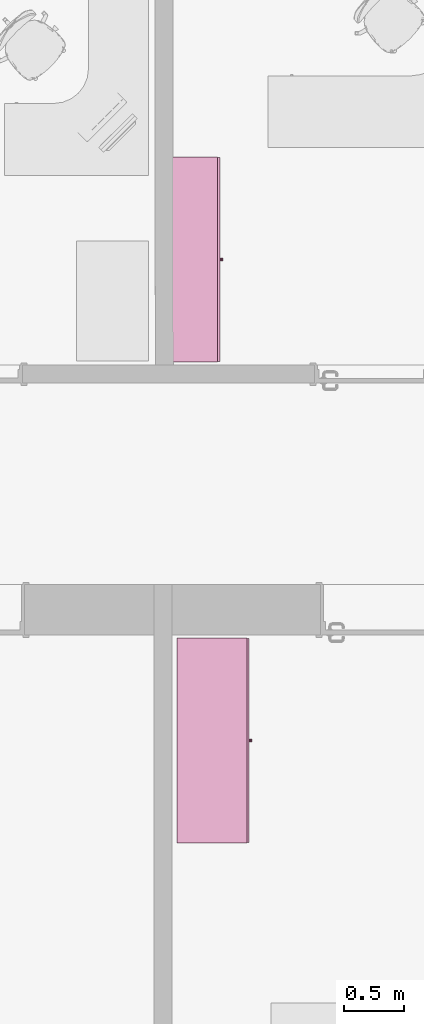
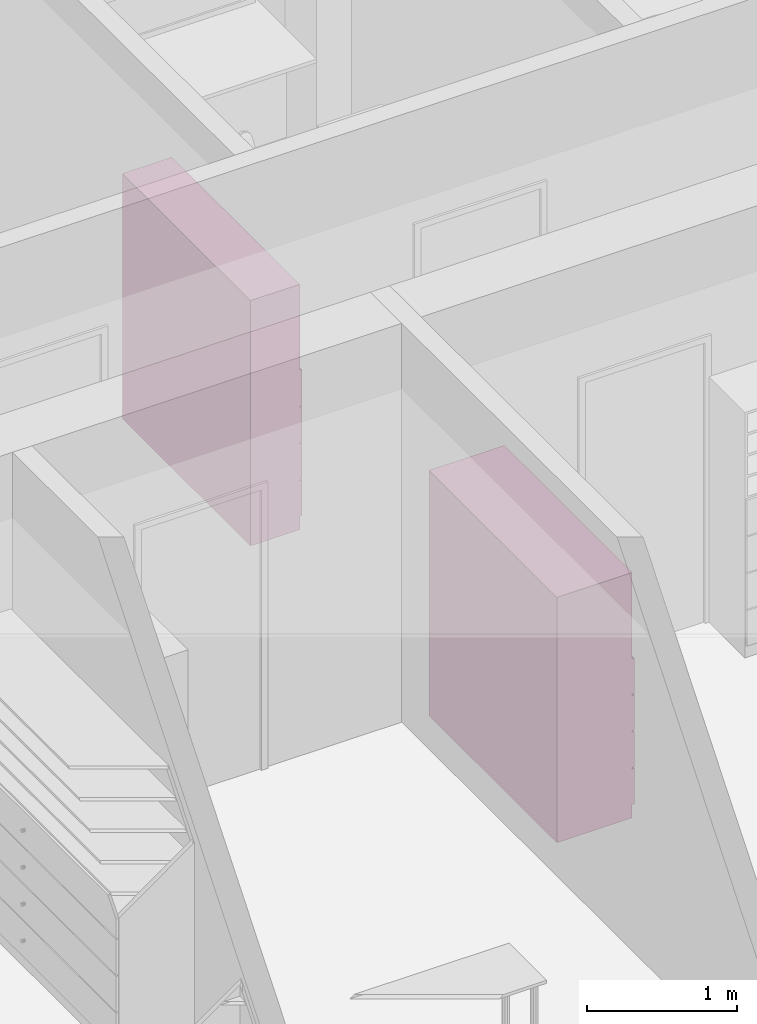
# One storey, part 144 of 194: 2 furnishings.
"""IFC2X3 building model written with IfcOpenShell, lengths in millimetres."""

from ifc_helpers import new_model, entity, si_unit, converted_unit, derived_unit, money_unit, direction, frame, origin_with_axes, place, context, subcontext, project, spatial, faceted_brep, source, transform, mapped, type_object, element, save


model = new_model("IFC2X3")

# Units and contexts
model_context = context("Model", 3, precision=1e-05, world=origin_with_axes(), true_north=direction((0.0, 1.0)))
body_context = subcontext(model_context, "Body", "Model", "MODEL_VIEW")
ifc_project = project(units=[si_unit("LENGTHUNIT", "METRE", prefix="MILLI"), si_unit("AREAUNIT", "SQUARE_METRE"), si_unit("VOLUMEUNIT", "CUBIC_METRE"), converted_unit("PLANEANGLEUNIT", "DEGREE", entity("IfcPlaneAngleMeasure", 0.0174532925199), si_unit("PLANEANGLEUNIT", "RADIAN"), dimensions=[0, 0, 0, 0, 0, 0, 0]), si_unit("SOLIDANGLEUNIT", "STERADIAN"), money_unit("EUR"), converted_unit("TIMEUNIT", "Year", entity("IfcTimeMeasure", 31556926.0), si_unit("TIMEUNIT", "SECOND"), dimensions=[0, 0, 1, 0, 0, 0, 0]), si_unit("MASSUNIT", "GRAM", prefix="KILO"), si_unit("THERMODYNAMICTEMPERATUREUNIT", "DEGREE_CELSIUS"), si_unit("LUMINOUSINTENSITYUNIT", "LUMEN"), si_unit("ENERGYUNIT", "JOULE", prefix="MEGA"), derived_unit("THERMALCONDUCTANCEUNIT", [(si_unit("POWERUNIT", "WATT"), 1), (si_unit("LENGTHUNIT", "METRE"), -1), (si_unit("THERMODYNAMICTEMPERATUREUNIT", "KELVIN"), -1)]), derived_unit("SPECIFICHEATCAPACITYUNIT", [(si_unit("ENERGYUNIT", "JOULE"), 1), (si_unit("MASSUNIT", "GRAM", prefix="KILO"), -1), (si_unit("THERMODYNAMICTEMPERATUREUNIT", "KELVIN"), -1)]), derived_unit("MASSDENSITYUNIT", [(si_unit("MASSUNIT", "GRAM", prefix="KILO"), 1), (si_unit("VOLUMEUNIT", "CUBIC_METRE"), -1)])], contexts=[model_context])

# Site, building, storey
site_placement = place(None, origin_with_axes())
site = spatial("IfcSite", under=ifc_project, at=site_placement, Name="Site", CompositionType="ELEMENT")
building_placement = place(site_placement, origin_with_axes())
building = spatial("IfcBuilding", under=site, at=building_placement, Name="Building", CompositionType="ELEMENT")
storey_placement = place(building_placement, frame((0.0, 0.0, 3000.0), z_axis=(0.0, 0.0, 1.0), x_axis=(1.0, 0.0, 0.0)))
storey = spatial("IfcBuildingStorey", under=building, at=storey_placement, Name="2 KORRUS", CompositionType="ELEMENT", Elevation=3000.0)

# Furnishings
furnishing_element_type_1 = type_object("IfcFurnishingElementType", Name="Model Element 113")
shared_shape_1 = source(origin_with_axes(), body_context, "Body", "Brep", [
    faceted_brep([(-1709.22062814, 19.0, 0.0), (-1709.22062814, 400.0, 0.0), (0.0, 400.0, 0.0), (0.0, 19.0, 0.0), (-1709.22062814, 19.0, 100.0), (-1709.22062814, 400.0, 100.0), (0.0, 400.0, 100.0), (0.0, 19.0, 100.0)], [[[0, 1, 2, 3]], [[0, 4, 5, 1]], [[1, 5, 6, 2]], [[2, 6, 7, 3]], [[3, 7, 4, 0]], [[7, 6, 5, 4]]]),
    faceted_brep([(-19.0, 400.0, 119.0), (-19.0, 400.0, 1981.0), (-19.0, 381.0, 1981.0), (-19.0, 381.0, 119.0), (-1690.22062814, 400.0, 119.0), (-1690.22062814, 400.0, 1981.0), (-1690.22062814, 381.0, 1981.0), (-1690.22062814, 381.0, 119.0)], [[[0, 1, 2, 3]], [[4, 5, 1, 0]], [[1, 5, 6, 2]], [[3, 2, 6, 7]], [[0, 3, 7, 4]], [[7, 6, 5, 4]]]),
    faceted_brep([(-1709.22062814, 19.0, 100.0), (-1709.22062814, 400.0, 100.0), (-1690.22062814, 400.0, 100.0), (-1690.22062814, 19.0, 100.0), (-1709.22062814, 19.0, 2000.0), (-1709.22062814, 400.0, 2000.0), (-1690.22062814, 400.0, 2000.0), (-1690.22062814, 19.0, 2000.0)], [[[0, 1, 2, 3]], [[0, 4, 5, 1]], [[1, 5, 6, 2]], [[2, 6, 7, 3]], [[3, 7, 4, 0]], [[7, 6, 5, 4]]]),
    faceted_brep([(-19.0, 19.0, 100.0), (-19.0, 400.0, 100.0), (0.0, 400.0, 100.0), (0.0, 19.0, 100.0), (-19.0, 19.0, 2000.0), (-19.0, 400.0, 2000.0), (0.0, 400.0, 2000.0), (0.0, 19.0, 2000.0)], [[[0, 1, 2, 3]], [[0, 4, 5, 1]], [[1, 5, 6, 2]], [[2, 6, 7, 3]], [[3, 7, 4, 0]], [[7, 6, 5, 4]]]),
    faceted_brep([(-1690.22062814, 19.0, 100.0), (-1690.22062814, 400.0, 100.0), (-19.0, 400.0, 100.0), (-19.0, 19.0, 100.0), (-1690.22062814, 19.0, 119.0), (-1690.22062814, 400.0, 119.0), (-19.0, 400.0, 119.0), (-19.0, 19.0, 119.0)], [[[0, 1, 2, 3]], [[0, 4, 5, 1]], [[1, 5, 6, 2]], [[2, 6, 7, 3]], [[3, 7, 4, 0]], [[7, 6, 5, 4]]]),
    faceted_brep([(-1690.22062814, 19.0, 1981.0), (-1690.22062814, 400.0, 1981.0), (-19.0, 400.0, 1981.0), (-19.0, 19.0, 1981.0), (-1690.22062814, 19.0, 2000.0), (-1690.22062814, 400.0, 2000.0), (-19.0, 400.0, 2000.0), (-19.0, 19.0, 2000.0)], [[[0, 1, 2, 3]], [[0, 4, 5, 1]], [[1, 5, 6, 2]], [[2, 6, 7, 3]], [[3, 7, 4, 0]], [[7, 6, 5, 4]]]),
    faceted_brep([(-5.0, 19.0, 105.0), (-5.0, 0.0, 105.0), (-1704.22062814, 0.0, 105.0), (-1704.22062814, 19.0, 105.0), (-5.0, 19.0, 395.0), (-5.0, 0.0, 395.0), (-1704.22062814, 0.0, 395.0), (-1704.22062814, 19.0, 395.0)], [[[0, 1, 2, 3]], [[4, 5, 1, 0]], [[1, 5, 6, 2]], [[3, 2, 6, 7]], [[0, 3, 7, 4]], [[7, 6, 5, 4]]]),
    faceted_brep([(-865.002618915, 0.0, 244.0), (-866.610314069, 0.0, 250.0), (-865.002618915, 0.0, 256.0), (-860.610314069, 0.0, 260.392304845), (-854.610314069, 0.0, 262.0), (-848.610314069, 0.0, 260.392304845), (-844.218009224, 0.0, 256.0), (-842.610314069, 0.0, 250.0), (-844.218009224, 0.0, 244.0), (-848.610314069, 0.0, 239.607695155), (-854.610314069, 0.0, 238.0), (-860.610314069, 0.0, 239.607695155), (-865.002618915, -25.0, 244.0), (-866.610314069, -25.0, 250.0), (-865.002618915, -25.0, 256.0), (-860.610314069, -25.0, 260.392304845), (-854.610314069, -25.0, 262.0), (-848.610314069, -25.0, 260.392304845), (-844.218009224, -25.0, 256.0), (-842.610314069, -25.0, 250.0), (-844.218009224, -25.0, 244.0), (-848.610314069, -25.0, 239.607695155), (-854.610314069, -25.0, 238.0), (-860.610314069, -25.0, 239.607695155)], [[[0, 1, 2, 3, 4, 5, 6, 7, 8, 9, 10, 11]], [[0, 12, 13, 1]], [[1, 13, 14, 2]], [[2, 14, 15, 3]], [[3, 15, 16, 4]], [[4, 16, 17, 5]], [[5, 17, 18, 6]], [[6, 18, 19, 7]], [[7, 19, 20, 8]], [[8, 20, 21, 9]], [[9, 21, 22, 10]], [[10, 22, 23, 11]], [[11, 23, 12, 0]], [[12, 23, 22, 21, 20, 19, 18, 17, 16, 15, 14, 13]]]),
    faceted_brep([(-5.0, 19.0, 405.0), (-5.0, 0.0, 405.0), (-1704.22062814, 0.0, 405.0), (-1704.22062814, 19.0, 405.0), (-5.0, 19.0, 695.0), (-5.0, 0.0, 695.0), (-1704.22062814, 0.0, 695.0), (-1704.22062814, 19.0, 695.0)], [[[0, 1, 2, 3]], [[4, 5, 1, 0]], [[1, 5, 6, 2]], [[3, 2, 6, 7]], [[0, 3, 7, 4]], [[7, 6, 5, 4]]]),
    faceted_brep([(-865.002618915, 0.0, 544.0), (-866.610314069, 0.0, 550.0), (-865.002618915, 0.0, 556.0), (-860.610314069, 0.0, 560.392304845), (-854.610314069, 0.0, 562.0), (-848.610314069, 0.0, 560.392304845), (-844.218009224, 0.0, 556.0), (-842.610314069, 0.0, 550.0), (-844.218009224, 0.0, 544.0), (-848.610314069, 0.0, 539.607695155), (-854.610314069, 0.0, 538.0), (-860.610314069, 0.0, 539.607695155), (-865.002618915, -25.0, 544.0), (-866.610314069, -25.0, 550.0), (-865.002618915, -25.0, 556.0), (-860.610314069, -25.0, 560.392304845), (-854.610314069, -25.0, 562.0), (-848.610314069, -25.0, 560.392304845), (-844.218009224, -25.0, 556.0), (-842.610314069, -25.0, 550.0), (-844.218009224, -25.0, 544.0), (-848.610314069, -25.0, 539.607695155), (-854.610314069, -25.0, 538.0), (-860.610314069, -25.0, 539.607695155)], [[[0, 1, 2, 3, 4, 5, 6, 7, 8, 9, 10, 11]], [[0, 12, 13, 1]], [[1, 13, 14, 2]], [[2, 14, 15, 3]], [[3, 15, 16, 4]], [[4, 16, 17, 5]], [[5, 17, 18, 6]], [[6, 18, 19, 7]], [[7, 19, 20, 8]], [[8, 20, 21, 9]], [[9, 21, 22, 10]], [[10, 22, 23, 11]], [[11, 23, 12, 0]], [[12, 23, 22, 21, 20, 19, 18, 17, 16, 15, 14, 13]]]),
    faceted_brep([(-5.0, 19.0, 705.0), (-5.0, 0.0, 705.0), (-1704.22062814, 0.0, 705.0), (-1704.22062814, 19.0, 705.0), (-5.0, 19.0, 995.0), (-5.0, 0.0, 995.0), (-1704.22062814, 0.0, 995.0), (-1704.22062814, 19.0, 995.0)], [[[0, 1, 2, 3]], [[4, 5, 1, 0]], [[1, 5, 6, 2]], [[3, 2, 6, 7]], [[0, 3, 7, 4]], [[7, 6, 5, 4]]]),
    faceted_brep([(-865.002618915, 0.0, 844.0), (-866.610314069, 0.0, 850.0), (-865.002618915, 0.0, 856.0), (-860.610314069, 0.0, 860.392304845), (-854.610314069, 0.0, 862.0), (-848.610314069, 0.0, 860.392304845), (-844.218009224, 0.0, 856.0), (-842.610314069, 0.0, 850.0), (-844.218009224, 0.0, 844.0), (-848.610314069, 0.0, 839.607695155), (-854.610314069, 0.0, 838.0), (-860.610314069, 0.0, 839.607695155), (-865.002618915, -25.0, 844.0), (-866.610314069, -25.0, 850.0), (-865.002618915, -25.0, 856.0), (-860.610314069, -25.0, 860.392304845), (-854.610314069, -25.0, 862.0), (-848.610314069, -25.0, 860.392304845), (-844.218009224, -25.0, 856.0), (-842.610314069, -25.0, 850.0), (-844.218009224, -25.0, 844.0), (-848.610314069, -25.0, 839.607695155), (-854.610314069, -25.0, 838.0), (-860.610314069, -25.0, 839.607695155)], [[[0, 1, 2, 3, 4, 5, 6, 7, 8, 9, 10, 11]], [[0, 12, 13, 1]], [[1, 13, 14, 2]], [[2, 14, 15, 3]], [[3, 15, 16, 4]], [[4, 16, 17, 5]], [[5, 17, 18, 6]], [[6, 18, 19, 7]], [[7, 19, 20, 8]], [[8, 20, 21, 9]], [[9, 21, 22, 10]], [[10, 22, 23, 11]], [[11, 23, 12, 0]], [[12, 23, 22, 21, 20, 19, 18, 17, 16, 15, 14, 13]]]),
    faceted_brep([(-5.0, 19.0, 1005.0), (-5.0, 0.0, 1005.0), (-1704.22062814, 0.0, 1005.0), (-1704.22062814, 19.0, 1005.0), (-5.0, 19.0, 1295.0), (-5.0, 0.0, 1295.0), (-1704.22062814, 0.0, 1295.0), (-1704.22062814, 19.0, 1295.0)], [[[0, 1, 2, 3]], [[4, 5, 1, 0]], [[1, 5, 6, 2]], [[3, 2, 6, 7]], [[0, 3, 7, 4]], [[7, 6, 5, 4]]]),
    faceted_brep([(-865.002618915, 0.0, 1144.0), (-866.610314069, 0.0, 1150.0), (-865.002618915, 0.0, 1156.0), (-860.610314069, 0.0, 1160.39230485), (-854.610314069, 0.0, 1162.0), (-848.610314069, 0.0, 1160.39230485), (-844.218009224, 0.0, 1156.0), (-842.610314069, 0.0, 1150.0), (-844.218009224, 0.0, 1144.0), (-848.610314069, 0.0, 1139.60769515), (-854.610314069, 0.0, 1138.0), (-860.610314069, 0.0, 1139.60769515), (-865.002618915, -25.0, 1144.0), (-866.610314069, -25.0, 1150.0), (-865.002618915, -25.0, 1156.0), (-860.610314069, -25.0, 1160.39230485), (-854.610314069, -25.0, 1162.0), (-848.610314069, -25.0, 1160.39230485), (-844.218009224, -25.0, 1156.0), (-842.610314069, -25.0, 1150.0), (-844.218009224, -25.0, 1144.0), (-848.610314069, -25.0, 1139.60769515), (-854.610314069, -25.0, 1138.0), (-860.610314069, -25.0, 1139.60769515)], [[[0, 1, 2, 3, 4, 5, 6, 7, 8, 9, 10, 11]], [[0, 12, 13, 1]], [[1, 13, 14, 2]], [[2, 14, 15, 3]], [[3, 15, 16, 4]], [[4, 16, 17, 5]], [[5, 17, 18, 6]], [[6, 18, 19, 7]], [[7, 19, 20, 8]], [[8, 20, 21, 9]], [[9, 21, 22, 10]], [[10, 22, 23, 11]], [[11, 23, 12, 0]], [[12, 23, 22, 21, 20, 19, 18, 17, 16, 15, 14, 13]]]),
    faceted_brep([(-19.0, 19.0, 390.5), (-19.0, 19.0, 409.5), (-1690.22062814, 19.0, 409.5), (-1690.22062814, 19.0, 390.5), (-19.0, 381.0, 390.5), (-19.0, 381.0, 409.5), (-1690.22062814, 381.0, 409.5), (-1690.22062814, 381.0, 390.5)], [[[0, 1, 2, 3]], [[4, 5, 1, 0]], [[1, 5, 6, 2]], [[3, 2, 6, 7]], [[0, 3, 7, 4]], [[7, 6, 5, 4]]]),
    faceted_brep([(-19.0, 19.0, 690.5), (-19.0, 19.0, 709.5), (-1690.22062814, 19.0, 709.5), (-1690.22062814, 19.0, 690.5), (-19.0, 381.0, 690.5), (-19.0, 381.0, 709.5), (-1690.22062814, 381.0, 709.5), (-1690.22062814, 381.0, 690.5)], [[[0, 1, 2, 3]], [[4, 5, 1, 0]], [[1, 5, 6, 2]], [[3, 2, 6, 7]], [[0, 3, 7, 4]], [[7, 6, 5, 4]]]),
    faceted_brep([(-19.0, 19.0, 990.5), (-19.0, 19.0, 1009.5), (-1690.22062814, 19.0, 1009.5), (-1690.22062814, 19.0, 990.5), (-19.0, 381.0, 990.5), (-19.0, 381.0, 1009.5), (-1690.22062814, 381.0, 1009.5), (-1690.22062814, 381.0, 990.5)], [[[0, 1, 2, 3]], [[4, 5, 1, 0]], [[1, 5, 6, 2]], [[3, 2, 6, 7]], [[0, 3, 7, 4]], [[7, 6, 5, 4]]]),
    faceted_brep([(-19.0, 19.0, 1290.5), (-19.0, 19.0, 1309.5), (-1690.22062814, 19.0, 1309.5), (-1690.22062814, 19.0, 1290.5), (-19.0, 381.0, 1290.5), (-19.0, 381.0, 1309.5), (-1690.22062814, 381.0, 1309.5), (-1690.22062814, 381.0, 1290.5)], [[[0, 1, 2, 3]], [[4, 5, 1, 0]], [[1, 5, 6, 2]], [[3, 2, 6, 7]], [[0, 3, 7, 4]], [[7, 6, 5, 4]]]),
    faceted_brep([(-1690.22062814, 19.0, 1463.125), (-1690.22062814, 381.0, 1463.125), (-19.0, 381.0, 1463.125), (-19.0, 19.0, 1463.125), (-1690.22062814, 19.0, 1482.125), (-1690.22062814, 381.0, 1482.125), (-19.0, 381.0, 1482.125), (-19.0, 19.0, 1482.125)], [[[0, 1, 2, 3]], [[0, 4, 5, 1]], [[1, 5, 6, 2]], [[2, 6, 7, 3]], [[3, 7, 4, 0]], [[7, 6, 5, 4]]]),
    faceted_brep([(-1690.22062814, 19.0, 1635.75), (-1690.22062814, 381.0, 1635.75), (-19.0, 381.0, 1635.75), (-19.0, 19.0, 1635.75), (-1690.22062814, 19.0, 1654.75), (-1690.22062814, 381.0, 1654.75), (-19.0, 381.0, 1654.75), (-19.0, 19.0, 1654.75)], [[[0, 1, 2, 3]], [[0, 4, 5, 1]], [[1, 5, 6, 2]], [[2, 6, 7, 3]], [[3, 7, 4, 0]], [[7, 6, 5, 4]]]),
    faceted_brep([(-1690.22062814, 19.0, 1808.375), (-1690.22062814, 381.0, 1808.375), (-19.0, 381.0, 1808.375), (-19.0, 19.0, 1808.375), (-1690.22062814, 19.0, 1827.375), (-1690.22062814, 381.0, 1827.375), (-19.0, 381.0, 1827.375), (-19.0, 19.0, 1827.375)], [[[0, 1, 2, 3]], [[0, 4, 5, 1]], [[1, 5, 6, 2]], [[2, 6, 7, 3]], [[3, 7, 4, 0]], [[7, 6, 5, 4]]]),
])
furnishing_1_placement = place(storey_placement, frame((31551.2178764, 69199.8548656, 0.0), z_axis=(0.0, 0.0, 1.0), x_axis=(0.0, 1.0, 0.0)))
element("IfcFurnishingElement", 1, at=furnishing_1_placement, inside=storey, type_object=furnishing_element_type_1, Name="FU - 001", context=body_context, shape_type="MappedRepresentation", body=[
    mapped(shared_shape_1, transform((0.0, 0.0, 0.0))),
])
furnishing_element_type_2 = type_object("IfcFurnishingElementType", Name="Model Element 105")
shared_shape_2 = source(origin_with_axes(), body_context, "Body", "Brep", [
    faceted_brep([(-1709.22062814, 19.0, 0.0), (-1709.22062814, 600.0, 0.0), (0.0, 600.0, 0.0), (0.0, 19.0, 0.0), (-1709.22062814, 19.0, 100.0), (-1709.22062814, 600.0, 100.0), (0.0, 600.0, 100.0), (0.0, 19.0, 100.0)], [[[0, 1, 2, 3]], [[0, 4, 5, 1]], [[1, 5, 6, 2]], [[2, 6, 7, 3]], [[3, 7, 4, 0]], [[7, 6, 5, 4]]]),
    faceted_brep([(-19.0, 600.0, 119.0), (-19.0, 600.0, 1981.0), (-19.0, 581.0, 1981.0), (-19.0, 581.0, 119.0), (-1690.22062814, 600.0, 119.0), (-1690.22062814, 600.0, 1981.0), (-1690.22062814, 581.0, 1981.0), (-1690.22062814, 581.0, 119.0)], [[[0, 1, 2, 3]], [[4, 5, 1, 0]], [[1, 5, 6, 2]], [[3, 2, 6, 7]], [[0, 3, 7, 4]], [[7, 6, 5, 4]]]),
    faceted_brep([(-1709.22062814, 19.0, 100.0), (-1709.22062814, 600.0, 100.0), (-1690.22062814, 600.0, 100.0), (-1690.22062814, 19.0, 100.0), (-1709.22062814, 19.0, 2000.0), (-1709.22062814, 600.0, 2000.0), (-1690.22062814, 600.0, 2000.0), (-1690.22062814, 19.0, 2000.0)], [[[0, 1, 2, 3]], [[0, 4, 5, 1]], [[1, 5, 6, 2]], [[2, 6, 7, 3]], [[3, 7, 4, 0]], [[7, 6, 5, 4]]]),
    faceted_brep([(-19.0, 19.0, 100.0), (-19.0, 600.0, 100.0), (0.0, 600.0, 100.0), (0.0, 19.0, 100.0), (-19.0, 19.0, 2000.0), (-19.0, 600.0, 2000.0), (0.0, 600.0, 2000.0), (0.0, 19.0, 2000.0)], [[[0, 1, 2, 3]], [[0, 4, 5, 1]], [[1, 5, 6, 2]], [[2, 6, 7, 3]], [[3, 7, 4, 0]], [[7, 6, 5, 4]]]),
    faceted_brep([(-1690.22062814, 19.0, 100.0), (-1690.22062814, 600.0, 100.0), (-19.0, 600.0, 100.0), (-19.0, 19.0, 100.0), (-1690.22062814, 19.0, 119.0), (-1690.22062814, 600.0, 119.0), (-19.0, 600.0, 119.0), (-19.0, 19.0, 119.0)], [[[0, 1, 2, 3]], [[0, 4, 5, 1]], [[1, 5, 6, 2]], [[2, 6, 7, 3]], [[3, 7, 4, 0]], [[7, 6, 5, 4]]]),
    faceted_brep([(-1690.22062814, 19.0, 1981.0), (-1690.22062814, 600.0, 1981.0), (-19.0, 600.0, 1981.0), (-19.0, 19.0, 1981.0), (-1690.22062814, 19.0, 2000.0), (-1690.22062814, 600.0, 2000.0), (-19.0, 600.0, 2000.0), (-19.0, 19.0, 2000.0)], [[[0, 1, 2, 3]], [[0, 4, 5, 1]], [[1, 5, 6, 2]], [[2, 6, 7, 3]], [[3, 7, 4, 0]], [[7, 6, 5, 4]]]),
    faceted_brep([(-5.0, 19.0, 105.0), (-5.0, 0.0, 105.0), (-1704.22062814, 0.0, 105.0), (-1704.22062814, 19.0, 105.0), (-5.0, 19.0, 395.0), (-5.0, 0.0, 395.0), (-1704.22062814, 0.0, 395.0), (-1704.22062814, 19.0, 395.0)], [[[0, 1, 2, 3]], [[4, 5, 1, 0]], [[1, 5, 6, 2]], [[3, 2, 6, 7]], [[0, 3, 7, 4]], [[7, 6, 5, 4]]]),
    faceted_brep([(-865.002618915, 0.0, 244.0), (-866.610314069, 0.0, 250.0), (-865.002618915, 0.0, 256.0), (-860.610314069, 0.0, 260.392304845), (-854.610314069, 0.0, 262.0), (-848.610314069, 0.0, 260.392304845), (-844.218009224, 0.0, 256.0), (-842.610314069, 0.0, 250.0), (-844.218009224, 0.0, 244.0), (-848.610314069, 0.0, 239.607695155), (-854.610314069, 0.0, 238.0), (-860.610314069, 0.0, 239.607695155), (-865.002618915, -25.0, 244.0), (-866.610314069, -25.0, 250.0), (-865.002618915, -25.0, 256.0), (-860.610314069, -25.0, 260.392304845), (-854.610314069, -25.0, 262.0), (-848.610314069, -25.0, 260.392304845), (-844.218009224, -25.0, 256.0), (-842.610314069, -25.0, 250.0), (-844.218009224, -25.0, 244.0), (-848.610314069, -25.0, 239.607695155), (-854.610314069, -25.0, 238.0), (-860.610314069, -25.0, 239.607695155)], [[[0, 1, 2, 3, 4, 5, 6, 7, 8, 9, 10, 11]], [[0, 12, 13, 1]], [[1, 13, 14, 2]], [[2, 14, 15, 3]], [[3, 15, 16, 4]], [[4, 16, 17, 5]], [[5, 17, 18, 6]], [[6, 18, 19, 7]], [[7, 19, 20, 8]], [[8, 20, 21, 9]], [[9, 21, 22, 10]], [[10, 22, 23, 11]], [[11, 23, 12, 0]], [[12, 23, 22, 21, 20, 19, 18, 17, 16, 15, 14, 13]]]),
    faceted_brep([(-5.0, 19.0, 405.0), (-5.0, 0.0, 405.0), (-1704.22062814, 0.0, 405.0), (-1704.22062814, 19.0, 405.0), (-5.0, 19.0, 695.0), (-5.0, 0.0, 695.0), (-1704.22062814, 0.0, 695.0), (-1704.22062814, 19.0, 695.0)], [[[0, 1, 2, 3]], [[4, 5, 1, 0]], [[1, 5, 6, 2]], [[3, 2, 6, 7]], [[0, 3, 7, 4]], [[7, 6, 5, 4]]]),
    faceted_brep([(-865.002618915, 0.0, 544.0), (-866.610314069, 0.0, 550.0), (-865.002618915, 0.0, 556.0), (-860.610314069, 0.0, 560.392304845), (-854.610314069, 0.0, 562.0), (-848.610314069, 0.0, 560.392304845), (-844.218009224, 0.0, 556.0), (-842.610314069, 0.0, 550.0), (-844.218009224, 0.0, 544.0), (-848.610314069, 0.0, 539.607695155), (-854.610314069, 0.0, 538.0), (-860.610314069, 0.0, 539.607695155), (-865.002618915, -25.0, 544.0), (-866.610314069, -25.0, 550.0), (-865.002618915, -25.0, 556.0), (-860.610314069, -25.0, 560.392304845), (-854.610314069, -25.0, 562.0), (-848.610314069, -25.0, 560.392304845), (-844.218009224, -25.0, 556.0), (-842.610314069, -25.0, 550.0), (-844.218009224, -25.0, 544.0), (-848.610314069, -25.0, 539.607695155), (-854.610314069, -25.0, 538.0), (-860.610314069, -25.0, 539.607695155)], [[[0, 1, 2, 3, 4, 5, 6, 7, 8, 9, 10, 11]], [[0, 12, 13, 1]], [[1, 13, 14, 2]], [[2, 14, 15, 3]], [[3, 15, 16, 4]], [[4, 16, 17, 5]], [[5, 17, 18, 6]], [[6, 18, 19, 7]], [[7, 19, 20, 8]], [[8, 20, 21, 9]], [[9, 21, 22, 10]], [[10, 22, 23, 11]], [[11, 23, 12, 0]], [[12, 23, 22, 21, 20, 19, 18, 17, 16, 15, 14, 13]]]),
    faceted_brep([(-5.0, 19.0, 705.0), (-5.0, 0.0, 705.0), (-1704.22062814, 0.0, 705.0), (-1704.22062814, 19.0, 705.0), (-5.0, 19.0, 995.0), (-5.0, 0.0, 995.0), (-1704.22062814, 0.0, 995.0), (-1704.22062814, 19.0, 995.0)], [[[0, 1, 2, 3]], [[4, 5, 1, 0]], [[1, 5, 6, 2]], [[3, 2, 6, 7]], [[0, 3, 7, 4]], [[7, 6, 5, 4]]]),
    faceted_brep([(-865.002618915, 0.0, 844.0), (-866.610314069, 0.0, 850.0), (-865.002618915, 0.0, 856.0), (-860.610314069, 0.0, 860.392304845), (-854.610314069, 0.0, 862.0), (-848.610314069, 0.0, 860.392304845), (-844.218009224, 0.0, 856.0), (-842.610314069, 0.0, 850.0), (-844.218009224, 0.0, 844.0), (-848.610314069, 0.0, 839.607695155), (-854.610314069, 0.0, 838.0), (-860.610314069, 0.0, 839.607695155), (-865.002618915, -25.0, 844.0), (-866.610314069, -25.0, 850.0), (-865.002618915, -25.0, 856.0), (-860.610314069, -25.0, 860.392304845), (-854.610314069, -25.0, 862.0), (-848.610314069, -25.0, 860.392304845), (-844.218009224, -25.0, 856.0), (-842.610314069, -25.0, 850.0), (-844.218009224, -25.0, 844.0), (-848.610314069, -25.0, 839.607695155), (-854.610314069, -25.0, 838.0), (-860.610314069, -25.0, 839.607695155)], [[[0, 1, 2, 3, 4, 5, 6, 7, 8, 9, 10, 11]], [[0, 12, 13, 1]], [[1, 13, 14, 2]], [[2, 14, 15, 3]], [[3, 15, 16, 4]], [[4, 16, 17, 5]], [[5, 17, 18, 6]], [[6, 18, 19, 7]], [[7, 19, 20, 8]], [[8, 20, 21, 9]], [[9, 21, 22, 10]], [[10, 22, 23, 11]], [[11, 23, 12, 0]], [[12, 23, 22, 21, 20, 19, 18, 17, 16, 15, 14, 13]]]),
    faceted_brep([(-5.0, 19.0, 1005.0), (-5.0, 0.0, 1005.0), (-1704.22062814, 0.0, 1005.0), (-1704.22062814, 19.0, 1005.0), (-5.0, 19.0, 1295.0), (-5.0, 0.0, 1295.0), (-1704.22062814, 0.0, 1295.0), (-1704.22062814, 19.0, 1295.0)], [[[0, 1, 2, 3]], [[4, 5, 1, 0]], [[1, 5, 6, 2]], [[3, 2, 6, 7]], [[0, 3, 7, 4]], [[7, 6, 5, 4]]]),
    faceted_brep([(-865.002618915, 0.0, 1144.0), (-866.610314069, 0.0, 1150.0), (-865.002618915, 0.0, 1156.0), (-860.610314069, 0.0, 1160.39230485), (-854.610314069, 0.0, 1162.0), (-848.610314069, 0.0, 1160.39230485), (-844.218009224, 0.0, 1156.0), (-842.610314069, 0.0, 1150.0), (-844.218009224, 0.0, 1144.0), (-848.610314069, 0.0, 1139.60769515), (-854.610314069, 0.0, 1138.0), (-860.610314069, 0.0, 1139.60769515), (-865.002618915, -25.0, 1144.0), (-866.610314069, -25.0, 1150.0), (-865.002618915, -25.0, 1156.0), (-860.610314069, -25.0, 1160.39230485), (-854.610314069, -25.0, 1162.0), (-848.610314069, -25.0, 1160.39230485), (-844.218009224, -25.0, 1156.0), (-842.610314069, -25.0, 1150.0), (-844.218009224, -25.0, 1144.0), (-848.610314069, -25.0, 1139.60769515), (-854.610314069, -25.0, 1138.0), (-860.610314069, -25.0, 1139.60769515)], [[[0, 1, 2, 3, 4, 5, 6, 7, 8, 9, 10, 11]], [[0, 12, 13, 1]], [[1, 13, 14, 2]], [[2, 14, 15, 3]], [[3, 15, 16, 4]], [[4, 16, 17, 5]], [[5, 17, 18, 6]], [[6, 18, 19, 7]], [[7, 19, 20, 8]], [[8, 20, 21, 9]], [[9, 21, 22, 10]], [[10, 22, 23, 11]], [[11, 23, 12, 0]], [[12, 23, 22, 21, 20, 19, 18, 17, 16, 15, 14, 13]]]),
    faceted_brep([(-19.0, 19.0, 390.5), (-19.0, 19.0, 409.5), (-1690.22062814, 19.0, 409.5), (-1690.22062814, 19.0, 390.5), (-19.0, 581.0, 390.5), (-19.0, 581.0, 409.5), (-1690.22062814, 581.0, 409.5), (-1690.22062814, 581.0, 390.5)], [[[0, 1, 2, 3]], [[4, 5, 1, 0]], [[1, 5, 6, 2]], [[3, 2, 6, 7]], [[0, 3, 7, 4]], [[7, 6, 5, 4]]]),
    faceted_brep([(-19.0, 19.0, 690.5), (-19.0, 19.0, 709.5), (-1690.22062814, 19.0, 709.5), (-1690.22062814, 19.0, 690.5), (-19.0, 581.0, 690.5), (-19.0, 581.0, 709.5), (-1690.22062814, 581.0, 709.5), (-1690.22062814, 581.0, 690.5)], [[[0, 1, 2, 3]], [[4, 5, 1, 0]], [[1, 5, 6, 2]], [[3, 2, 6, 7]], [[0, 3, 7, 4]], [[7, 6, 5, 4]]]),
    faceted_brep([(-19.0, 19.0, 990.5), (-19.0, 19.0, 1009.5), (-1690.22062814, 19.0, 1009.5), (-1690.22062814, 19.0, 990.5), (-19.0, 581.0, 990.5), (-19.0, 581.0, 1009.5), (-1690.22062814, 581.0, 1009.5), (-1690.22062814, 581.0, 990.5)], [[[0, 1, 2, 3]], [[4, 5, 1, 0]], [[1, 5, 6, 2]], [[3, 2, 6, 7]], [[0, 3, 7, 4]], [[7, 6, 5, 4]]]),
    faceted_brep([(-19.0, 19.0, 1290.5), (-19.0, 19.0, 1309.5), (-1690.22062814, 19.0, 1309.5), (-1690.22062814, 19.0, 1290.5), (-19.0, 581.0, 1290.5), (-19.0, 581.0, 1309.5), (-1690.22062814, 581.0, 1309.5), (-1690.22062814, 581.0, 1290.5)], [[[0, 1, 2, 3]], [[4, 5, 1, 0]], [[1, 5, 6, 2]], [[3, 2, 6, 7]], [[0, 3, 7, 4]], [[7, 6, 5, 4]]]),
    faceted_brep([(-1690.22062814, 19.0, 1463.125), (-1690.22062814, 581.0, 1463.125), (-19.0, 581.0, 1463.125), (-19.0, 19.0, 1463.125), (-1690.22062814, 19.0, 1482.125), (-1690.22062814, 581.0, 1482.125), (-19.0, 581.0, 1482.125), (-19.0, 19.0, 1482.125)], [[[0, 1, 2, 3]], [[0, 4, 5, 1]], [[1, 5, 6, 2]], [[2, 6, 7, 3]], [[3, 7, 4, 0]], [[7, 6, 5, 4]]]),
    faceted_brep([(-1690.22062814, 19.0, 1635.75), (-1690.22062814, 581.0, 1635.75), (-19.0, 581.0, 1635.75), (-19.0, 19.0, 1635.75), (-1690.22062814, 19.0, 1654.75), (-1690.22062814, 581.0, 1654.75), (-19.0, 581.0, 1654.75), (-19.0, 19.0, 1654.75)], [[[0, 1, 2, 3]], [[0, 4, 5, 1]], [[1, 5, 6, 2]], [[2, 6, 7, 3]], [[3, 7, 4, 0]], [[7, 6, 5, 4]]]),
    faceted_brep([(-1690.22062814, 19.0, 1808.375), (-1690.22062814, 581.0, 1808.375), (-19.0, 581.0, 1808.375), (-19.0, 19.0, 1808.375), (-1690.22062814, 19.0, 1827.375), (-1690.22062814, 581.0, 1827.375), (-19.0, 581.0, 1827.375), (-19.0, 19.0, 1827.375)], [[[0, 1, 2, 3]], [[0, 4, 5, 1]], [[1, 5, 6, 2]], [[2, 6, 7, 3]], [[3, 7, 4, 0]], [[7, 6, 5, 4]]]),
])
furnishing_2_placement = place(storey_placement, frame((31795.8888717, 65184.2366095, 0.0), z_axis=(0.0, 0.0, 1.0), x_axis=(0.0, 1.0, 0.0)))
element("IfcFurnishingElement", 2, at=furnishing_2_placement, inside=storey, type_object=furnishing_element_type_2, Name="FU - 001", context=body_context, shape_type="MappedRepresentation", body=[
    mapped(shared_shape_2, transform((0.0, 0.0, 0.0))),
])

save(model, "model.ifc")
